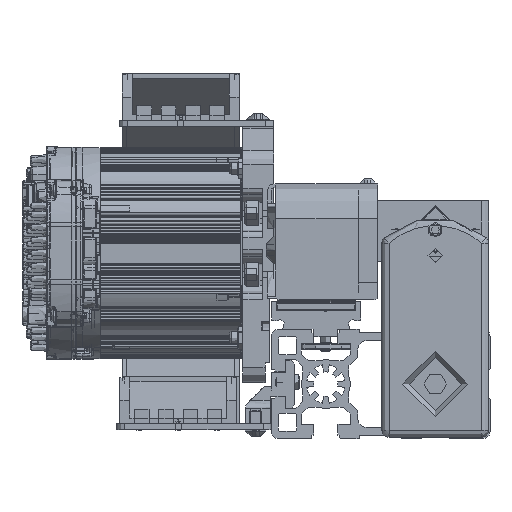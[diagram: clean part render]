
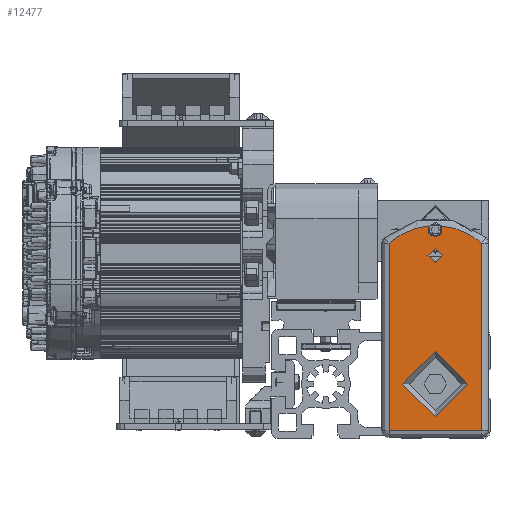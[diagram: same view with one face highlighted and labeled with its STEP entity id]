
A CAD part, front view. The second image highlights one B-rep face of the part: STEP entity #12477.
In plain terms, the highlighted planar face has unit normal (0, -1, 0).
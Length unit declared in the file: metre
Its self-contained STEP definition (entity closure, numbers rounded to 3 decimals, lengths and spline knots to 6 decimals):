
#12477 = ADVANCED_FACE( '', ( #29138, #29139, #29140 ), #29141, .T. );
#29138 = FACE_OUTER_BOUND( '', #67260, .T. );
#29139 = FACE_BOUND( '', #67261, .T. );
#29140 = FACE_BOUND( '', #67262, .T. );
#29141 = PLANE( '', #67263 );
#67260 = EDGE_LOOP( '', ( #151261, #151262, #151263, #151264, #151265, #151266 ) );
#67261 = EDGE_LOOP( '', ( #151267 ) );
#67262 = EDGE_LOOP( '', ( #151268 ) );
#67263 = AXIS2_PLACEMENT_3D( '', #151269, #151270, #151271 );
#151261 = ORIENTED_EDGE( '', *, *, #196467, .T. );
#151262 = ORIENTED_EDGE( '', *, *, #197174, .T. );
#151263 = ORIENTED_EDGE( '', *, *, #196471, .T. );
#151264 = ORIENTED_EDGE( '', *, *, #203713, .T. );
#151265 = ORIENTED_EDGE( '', *, *, #203714, .T. );
#151266 = ORIENTED_EDGE( '', *, *, #203715, .T. );
#151267 = ORIENTED_EDGE( '', *, *, #203716, .T. );
#151268 = ORIENTED_EDGE( '', *, *, #200896, .F. );
#151269 = CARTESIAN_POINT( '', ( -0.04064, -0.004762, -0.022 ) );
#151270 = DIRECTION( '', ( 0., -1., 0. ) );
#151271 = DIRECTION( '', ( 0., 0., -1. ) );
#196467 = EDGE_CURVE( '', #220410, #220407, #220411, .T. );
#196471 = EDGE_CURVE( '', #220408, #220416, #220418, .T. );
#197174 = EDGE_CURVE( '', #220407, #220408, #221673, .T. );
#200896 = EDGE_CURVE( '', #228105, #228105, #228106, .T. );
#203713 = EDGE_CURVE( '', #220416, #232771, #232772, .T. );
#203714 = EDGE_CURVE( '', #232771, #232773, #232774, .T. );
#203715 = EDGE_CURVE( '', #232773, #220410, #232775, .T. );
#203716 = EDGE_CURVE( '', #232776, #232776, #232777, .T. );
#220407 = VERTEX_POINT( '', #255793 );
#220408 = VERTEX_POINT( '', #255794 );
#220410 = VERTEX_POINT( '', #255817 );
#220411 = CIRCLE( '', #255818, 0.02875 );
#220416 = VERTEX_POINT( '', #255823 );
#220418 = CIRCLE( '', #255825, 0.02875 );
#221673 = CIRCLE( '', #259290, 0.003 );
#228105 = VERTEX_POINT( '', #276266 );
#228106 = CIRCLE( '', #276267, 0.01344 );
#232771 = VERTEX_POINT( '', #288771 );
#232772 = LINE( '', #288772, #288773 );
#232773 = VERTEX_POINT( '', #288774 );
#232774 = LINE( '', #288775, #288776 );
#232775 = LINE( '', #288777, #288778 );
#232776 = VERTEX_POINT( '', #288779 );
#232777 = CIRCLE( '', #288780, 0.003 );
#255793 = CARTESIAN_POINT( '', ( -0.046381, -0.004763, 0.002586 ) );
#255794 = CARTESIAN_POINT( '', ( -0.046381, -0.004763, -0.002586 ) );
#255817 = CARTESIAN_POINT( '', ( -0.039324, -0.004763, 0.019 ) );
#255818 = AXIS2_PLACEMENT_3D( '', #342992, #342993, #342994 );
#255823 = CARTESIAN_POINT( '', ( -0.039324, -0.004763, -0.019 ) );
#255825 = AXIS2_PLACEMENT_3D( '', #343004, #343005, #343006 );
#259290 = AXIS2_PLACEMENT_3D( '', #343917, #343918, #343919 );
#276266 = CARTESIAN_POINT( '', ( 0.03208, -0.004763, 0. ) );
#276267 = AXIS2_PLACEMENT_3D( '', #348579, #348580, #348581 );
#288771 = CARTESIAN_POINT( '', ( 0.03764, -0.004763, -0.019 ) );
#288772 = CARTESIAN_POINT( '', ( 0.03764, -0.004763, -0.019 ) );
#288773 = VECTOR( '', #352235, 1. );
#288774 = CARTESIAN_POINT( '', ( 0.03764, -0.004763, 0.019 ) );
#288775 = CARTESIAN_POINT( '', ( 0.03764, -0.004763, 0.019 ) );
#288776 = VECTOR( '', #352236, 1. );
#288777 = CARTESIAN_POINT( '', ( -0.039324, -0.004763, 0.019 ) );
#288778 = VECTOR( '', #352237, 1. );
#288779 = CARTESIAN_POINT( '', ( -0.03729, -0.004762, 0. ) );
#288780 = AXIS2_PLACEMENT_3D( '', #352238, #352239, #352240 );
#342992 = CARTESIAN_POINT( '', ( -0.017748, -0.004762, 0. ) );
#342993 = DIRECTION( '', ( 0., -1., 0. ) );
#342994 = DIRECTION( '', ( 1., 0., 0. ) );
#343004 = CARTESIAN_POINT( '', ( -0.017748, -0.004762, 0. ) );
#343005 = DIRECTION( '', ( 0., -1., 0. ) );
#343006 = DIRECTION( '', ( 1., 0., 0. ) );
#343917 = CARTESIAN_POINT( '', ( -0.04486, -0.004763, 0. ) );
#343918 = DIRECTION( '', ( 0., 1., 0. ) );
#343919 = DIRECTION( '', ( -1., 0., 0. ) );
#348579 = CARTESIAN_POINT( '', ( 0.01864, -0.004763, 0. ) );
#348580 = DIRECTION( '', ( 0., -1., 0. ) );
#348581 = DIRECTION( '', ( 1., 0., 0. ) );
#352235 = DIRECTION( '', ( 1., 0., 0. ) );
#352236 = DIRECTION( '', ( 0., 0., 1. ) );
#352237 = DIRECTION( '', ( -1., 0., 0. ) );
#352238 = CARTESIAN_POINT( '', ( -0.03429, -0.004762, 0. ) );
#352239 = DIRECTION( '', ( 0., 1., 0. ) );
#352240 = DIRECTION( '', ( -1., 0., 0. ) );
